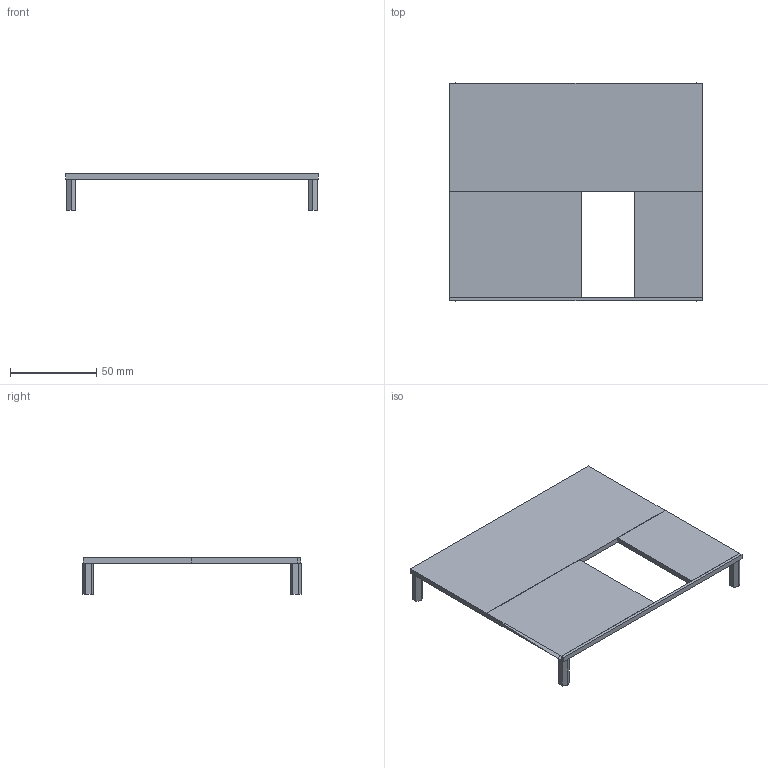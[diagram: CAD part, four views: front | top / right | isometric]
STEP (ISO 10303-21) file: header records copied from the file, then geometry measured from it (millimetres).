
FILE_DESCRIPTION(('MP-01 plate with the DevKit opening, and the four M3 x 18 standoffs'),'2;1');
FILE_NAME('MP-01_module_plate_and_standoffs','2026-09-08T00:00:00',('TI One Voice research programme'),(''),'EEG-CAR-01 step_write.py','','CC BY-SA 4.0');
FILE_SCHEMA(('AUTOMOTIVE_DESIGN { 1 0 10303 214 1 1 1 1 }'));
Length unit declared in the file: millimetre
Products named in the file (2): MP-01_module_plate; standoffs_M3x18
Bounding box: 146 x 126.35 x 21 mm (x, y, z)
Volume: 51401.2 mm3; surface area: 38155.4 mm2
Topology: 8 solids, 8 shells, 56 faces, 116 edges, 72 vertices
Faces by surface type: plane 56
Entity records: 489 total; most frequent: DIRECTION 114, CARTESIAN_POINT 73, AXIS2_PLACEMENT_3D 57, POLY_LOOP 56, FACE_OUTER_BOUND 56, PLANE 56, FACE_SURFACE 56, CLOSED_SHELL 2
